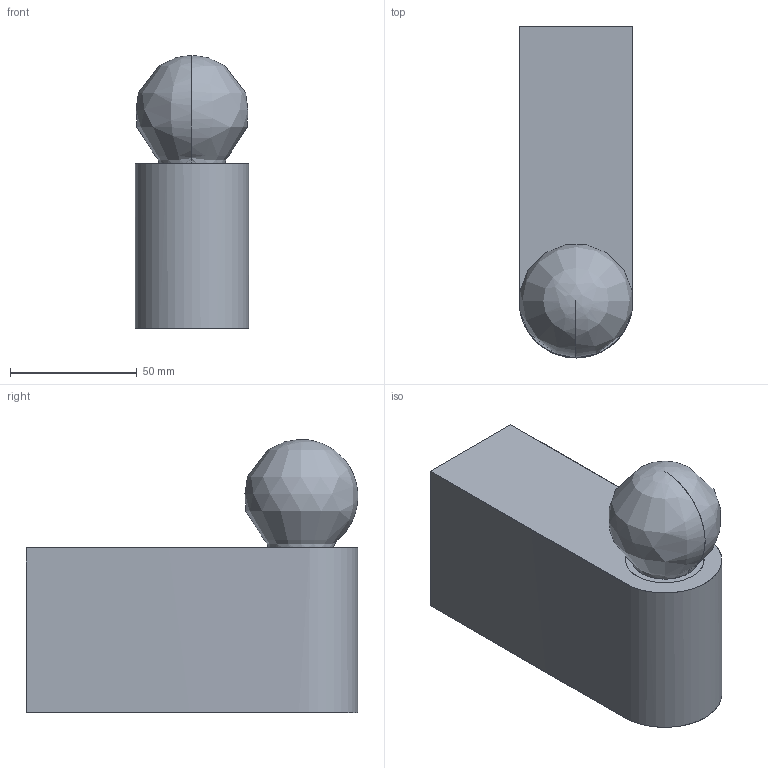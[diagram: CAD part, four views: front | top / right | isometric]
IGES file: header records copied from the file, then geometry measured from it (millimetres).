
Start section: Use this template file for building objects the size of a truck or smaller, and for objects which must be built to manufacturing tolerances. Units: Millimeters Absolute tolerance: .001 mm
Bounding box: 45 x 131.03 x 107.84 mm (x, y, z)
Surface area: 38417.6 mm2 (no closed solid volume)
Topology: 0 solids, 0 shells, 6 faces, 34 edges, 32 vertices
Faces by surface type: bspline 6
